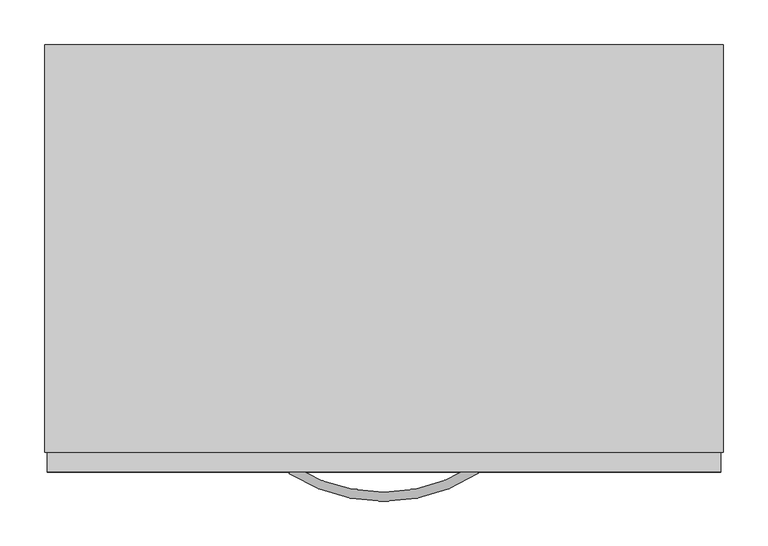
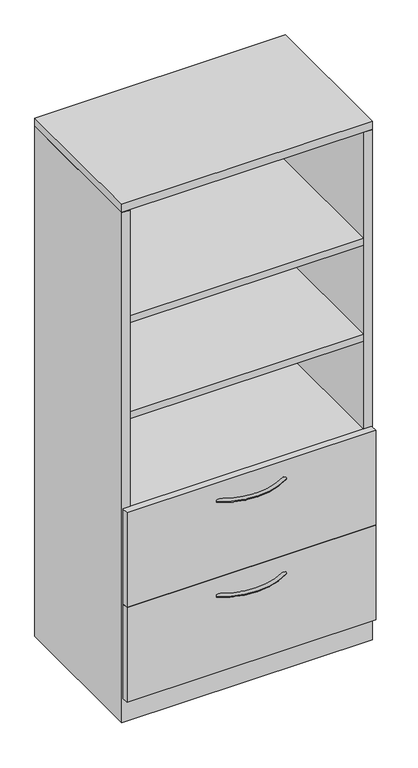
"""IFC4 building model written with IfcOpenShell, lengths in millimetres: furniture geometry, Steelcase - Universal Storage - Cabinet - Combination - Proud Steel : 65 1/2H - Open Cabinet/2 Drawers - 18 7/8D x 30W."""

from ifc_helpers import new_model, si_unit, point, frame, origin, place, context, project, spatial, polyline, circle_curve, ellipse_curve, trimmed, outline, extrude, faceted_brep, source, transform, mapped, element, save
from ifc_brep_helpers import plane_surface, revolved_surface, advanced_brep


def furniture_00acd8e9(model_context):
    return source(origin(), model_context, "Body", "SolidModel", [
        extrude(outline(polyline([(736.6000242, -25.4000008), (736.6000242, -454.0250121), (25.4000008, -454.0250121), (25.4000008, -25.4000008), (736.6000242, -25.4000008)])), frame((0.0, 0.0, 660.4000242), z_axis=(0.0, 0.0, 1.0), x_axis=(1.0, 0.0, 0.0)), (0.0, 0.0, 1.0), 22.2249516),
        extrude(outline(polyline([(736.6000242, -25.4000008), (736.6000242, -454.0250121), (25.4000008, -454.0250121), (25.4000008, -25.4000008), (736.6000242, -25.4000008)])), frame((0.0, 0.0, 965.2000242), z_axis=(0.0, 0.0, 1.0), x_axis=(1.0, 0.0, 0.0)), (0.0, 0.0, 1.0), 22.2249516),
        extrude(outline(polyline([(736.6000242, -25.4000008), (736.6000242, -454.0250121), (25.4000008, -454.0250121), (25.4000008, -25.4000008), (736.6000242, -25.4000008)])), frame((0.0, 0.0, 1273.1750484), z_axis=(0.0, 0.0, 1.0), x_axis=(1.0, 0.0, 0.0)), (0.0, 0.0, 1.0), 22.2249516),
        advanced_brep(
        [(274.4245932, -481.5705994, 323.56425), (279.8977519, -473.0108019, 323.56425), (486.7315136, -481.1337636, 323.56425), (481.2231767, -472.5965612, 323.56425)],
        [
            (0, 1, circle_curve(frame((277.1611726, -477.2907007, 323.56425), z_axis=(-0.8424997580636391, 0.5386967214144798, 0.0), x_axis=(0.5386967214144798, 0.8424997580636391, 0.0)), 5.08)),
            (1, 0, circle_curve(frame((277.1611726, -477.2907007, 323.56425), z_axis=(-0.8424997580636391, 0.5386967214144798, 0.0), x_axis=(0.5386967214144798, 0.8424997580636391, 0.0)), 5.08)),
            (2, 3, circle_curve(frame((483.9773452, -476.8651624, 323.56425), z_axis=(0.8402758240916, 0.5421591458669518, 0.0), x_axis=(-0.5421591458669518, 0.8402758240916, 0.0)), 5.08)),
            (3, 2, circle_curve(frame((483.9773452, -476.8651624, 323.56425), z_axis=(0.8402758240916, 0.5421591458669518, 0.0), x_axis=(-0.5421591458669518, 0.8402758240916, 0.0)), 5.08)),
            (3, 1, circle_curve(frame((380.2380004, -316.0827352, 323.56425), z_axis=(0.0, 0.0, -1.0), x_axis=(-0.5386967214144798, -0.8424997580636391, 0.0)), 186.2648211)),
            (0, 2, circle_curve(frame((380.2380004, -316.0827352, 323.56425), z_axis=(0.0, 0.0, 1.0), x_axis=(-0.5386967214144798, -0.8424997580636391, 0.0)), 196.4248211)),
        ],
        [
            plane_surface(frame((277.5794521, -476.6365286, 324.358), z_axis=(-0.8424997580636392, 0.5386967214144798, 0.0), x_axis=(0.0, 0.0, 1.0))),
            plane_surface(frame((483.5563772, -476.2127171, 324.358), z_axis=(0.8402758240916, 0.5421591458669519, 0.0), x_axis=(0.0, 0.0, 1.0))),
            revolved_surface(trimmed(ellipse_curve(frame((277.1611726, -477.2907007, 323.56425), z_axis=(-0.8424997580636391, 0.5386967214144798, 0.0), x_axis=(0.5386967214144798, 0.8424997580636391, 0.0)), 5.08, 5.08), [point((274.4245932, -481.5705994, 323.56425))], [point((279.8977519, -473.0108019, 323.56425))], True, "CARTESIAN"), (380.2380004, -316.0827352, 324.358), (0.0, 0.0, 1.0)),
            revolved_surface(trimmed(ellipse_curve(frame((277.1611726, -477.2907007, 323.56425), z_axis=(-0.8424997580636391, 0.5386967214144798, 0.0), x_axis=(0.5386967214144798, 0.8424997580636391, 0.0)), 5.08, 5.08), [point((279.8977519, -473.0108019, 323.56425))], [point((274.4245932, -481.5705994, 323.56425))], True, "CARTESIAN"), (380.2380004, -316.0827352, 324.358), (0.0, 0.0, 1.0)),
        ],
        [
            (0, [[1, 2]]),
            (1, [[3, 4]]),
            (2, [[5, -1, 6, -4]]),
            (3, [[-6, -2, -5, -3]]),
        ],
    ),
        advanced_brep(
        [(274.4245932, -481.5705994, 627.85625), (279.8977519, -473.0108019, 627.85625), (486.7315136, -481.1337636, 627.85625), (481.2231767, -472.5965612, 627.85625)],
        [
            (0, 1, circle_curve(frame((277.1611726, -477.2907007, 627.85625), z_axis=(-0.8424997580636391, 0.5386967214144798, 0.0), x_axis=(0.5386967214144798, 0.8424997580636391, 0.0)), 5.08)),
            (1, 0, circle_curve(frame((277.1611726, -477.2907007, 627.85625), z_axis=(-0.8424997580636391, 0.5386967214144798, 0.0), x_axis=(0.5386967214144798, 0.8424997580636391, 0.0)), 5.08)),
            (2, 3, circle_curve(frame((483.9773452, -476.8651624, 627.85625), z_axis=(0.8402758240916, 0.5421591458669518, 0.0), x_axis=(-0.5421591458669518, 0.8402758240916, 0.0)), 5.08)),
            (3, 2, circle_curve(frame((483.9773452, -476.8651624, 627.85625), z_axis=(0.8402758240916, 0.5421591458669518, 0.0), x_axis=(-0.5421591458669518, 0.8402758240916, 0.0)), 5.08)),
            (3, 1, circle_curve(frame((380.2380004, -316.0827352, 627.85625), z_axis=(0.0, 0.0, -1.0), x_axis=(-0.5386967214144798, -0.8424997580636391, 0.0)), 186.2648211)),
            (0, 2, circle_curve(frame((380.2380004, -316.0827352, 627.85625), z_axis=(0.0, 0.0, 1.0), x_axis=(-0.5386967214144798, -0.8424997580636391, 0.0)), 196.4248211)),
        ],
        [
            plane_surface(frame((277.5794521, -476.6365286, 628.65), z_axis=(-0.8424997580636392, 0.5386967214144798, 0.0), x_axis=(0.0, 0.0, 1.0))),
            plane_surface(frame((483.5563772, -476.2127171, 628.65), z_axis=(0.8402758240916, 0.5421591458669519, 0.0), x_axis=(0.0, 0.0, 1.0))),
            revolved_surface(trimmed(ellipse_curve(frame((277.1611726, -477.2907007, 627.85625), z_axis=(-0.8424997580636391, 0.5386967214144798, 0.0), x_axis=(0.5386967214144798, 0.8424997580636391, 0.0)), 5.08, 5.08), [point((274.4245932, -481.5705994, 627.85625))], [point((279.8977519, -473.0108019, 627.85625))], True, "CARTESIAN"), (380.2380004, -316.0827352, 628.65), (0.0, 0.0, 1.0)),
            revolved_surface(trimmed(ellipse_curve(frame((277.1611726, -477.2907007, 627.85625), z_axis=(-0.8424997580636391, 0.5386967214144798, 0.0), x_axis=(0.5386967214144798, 0.8424997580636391, 0.0)), 5.08, 5.08), [point((279.8977519, -473.0108019, 627.85625))], [point((274.4245932, -481.5705994, 627.85625))], True, "CARTESIAN"), (380.2380004, -316.0827352, 628.65), (0.0, 0.0, 1.0)),
        ],
        [
            (0, [[1, 2]]),
            (1, [[3, 4]]),
            (2, [[5, -1, 6, -4]]),
            (3, [[-6, -2, -5, -3]]),
        ],
    ),
        faceted_brep([(25.4000008, -457.3261219, 76.2), (736.6000242, -457.3261219, 76.2), (736.6000242, -25.4000008, 76.2), (25.4000008, -25.4000008, 76.2), (762.0, 0.0, 0.0), (762.0, -457.3261219, 0.0), (0.0, -457.3261219, 0.0), (0.0, 0.0, 0.0), (0.0, 0.0, 1636.776), (762.0, 0.0, 1636.776), (0.0, -457.3261219, 1636.776), (762.0, -457.3261219, 1636.776), (736.6000242, -457.3261219, 1636.776), (25.4000008, -457.3261219, 1636.776), (736.6000242, -25.4000008, 1636.776), (25.4000008, -25.4000008, 1636.776)], [[[0, 1, 2, 3]], [[4, 5, 6, 7]], [[4, 7, 8, 9]], [[8, 7, 6, 10]], [[10, 6, 5, 11, 12, 1, 0, 13]], [[11, 5, 4, 9]], [[14, 12, 11, 9, 8, 10, 13, 15]], [[12, 14, 2, 1]], [[15, 13, 0, 3]], [[14, 15, 3, 2]]]),
        extrude(outline(polyline([(758.8225413, -479.552), (3.1725353, -479.552), (3.1725353, -457.3261219), (758.8225413, -457.3261219), (758.8225413, -479.552)])), frame((0.0, 0.0, 77.724), z_axis=(0.0, 0.0, 1.0), x_axis=(1.0, 0.0, 0.0)), (0.0, 0.0, 1.0), 303.276),
        extrude(outline(polyline([(758.8225413, -479.552), (3.1725353, -479.552), (3.1725353, -457.3261219), (758.8225413, -457.3261219), (758.8225413, -479.552)])), frame((0.0, 0.0, 382.524), z_axis=(0.0, 0.0, 1.0), x_axis=(1.0, 0.0, 0.0)), (0.0, 0.0, 1.0), 303.276),
        extrude(outline(polyline([(762.0, 0.0), (762.0, -457.3261219), (0.0, -457.3261219), (0.0, 0.0), (762.0, 0.0)])), frame((0.0, 0.0, 1638.2999516), z_axis=(0.0, 0.0, 1.0), x_axis=(1.0, 0.0, 0.0)), (0.0, 0.0, 1.0), 25.4000484),
    ])


if __name__ == "__main__":
    model = new_model("IFC4")
    model_context = context("Model", 3, world=origin())
    ifc_project = project(units=[si_unit("LENGTHUNIT", "METRE", prefix="MILLI")], contexts=[model_context])
    site = spatial("IfcSite", under=ifc_project)
    building = spatial("IfcBuilding", under=site)
    placement = place(None, origin())
    furniture_shape = furniture_00acd8e9(model_context)
    element("IfcFurniture", 1, ObjectType="Steelcase - Universal Storage - Cabinet - Combination - Proud Steel : 65 1/2H - Open Cabinet/2 Drawers - 18 7/8D x 30W", at=placement, inside=building, context=model_context, shape_type="MappedRepresentation", body=[
        mapped(furniture_shape, transform((0.0, 0.0, 0.0), x_axis=(1.0, 0.0, 0.0), y_axis=(0.0, 1.0, 0.0), z_axis=(0.0, 0.0, 1.0))),
    ])
    save(model, "model.ifc")
